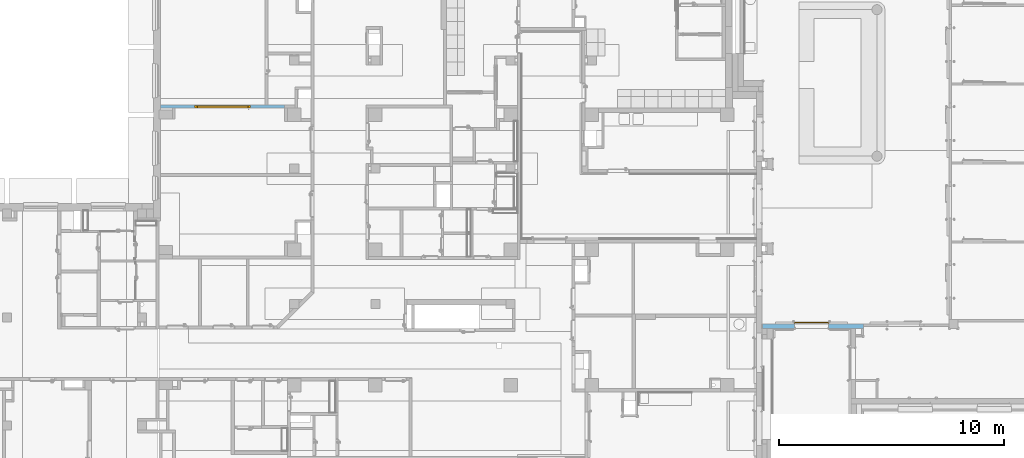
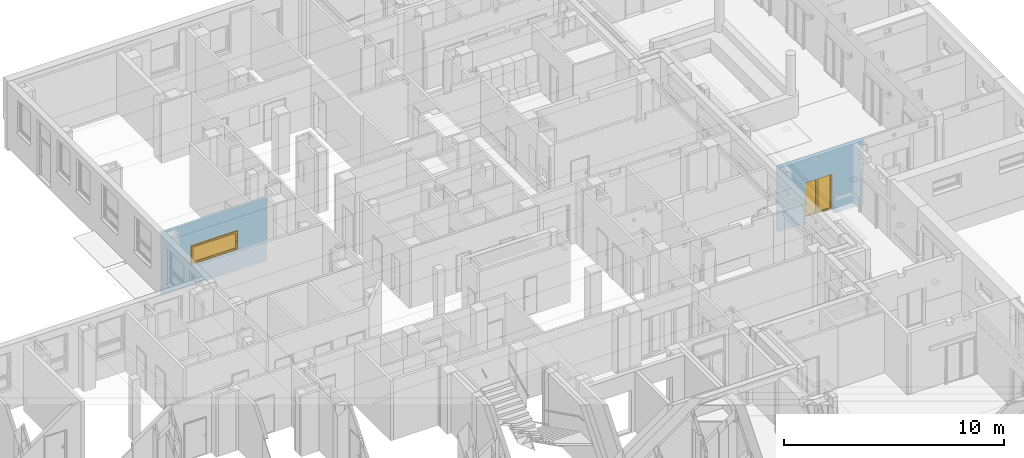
# One storey, part 89 of 140: 1 door, 1 window, 3 openings, plus 2 elements that do not belong to this part.
"""IFC4 building model written with IfcOpenShell, lengths in metres."""

from ifc_helpers import new_model, entity, si_unit, converted_unit, derived_unit, frame, frame_2d, origin, origin_with_axes, place, context, subcontext, project, spatial, polyline, rectangle, outline, extrude, closed_shell, open_shell, surface_model, source, transform, mapped, material, layer, layer_set, layer_usage, type_object, element, fill, save


model = new_model("IFC4")

# Units and contexts
model_context = context("Model", 3, precision=1e-05, world=origin())
body_context = subcontext(model_context, "Body", "Model", "MODEL_VIEW")
ifc_project = project(units=[si_unit("LENGTHUNIT", "METRE"), si_unit("AREAUNIT", "SQUARE_METRE"), si_unit("VOLUMEUNIT", "CUBIC_METRE"), si_unit("MASSUNIT", "GRAM", prefix="KILO"), converted_unit("PLANEANGLEUNIT", "DEGREE", entity("IfcPlaneAngleMeasure", 0.0174532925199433), si_unit("PLANEANGLEUNIT", "RADIAN"), dimensions=[0, 0, 0, 0, 0, 0, 0]), derived_unit("THERMALTRANSMITTANCEUNIT", [(si_unit("POWERUNIT", "WATT"), 1), (si_unit("THERMODYNAMICTEMPERATUREUNIT", "KELVIN"), -1), (si_unit("LENGTHUNIT", "METRE"), -2)]), derived_unit("VOLUMETRICFLOWRATEUNIT", [(si_unit("LENGTHUNIT", "METRE"), 3), (converted_unit("TIMEUNIT", "hour", entity("IfcTimeMeasure", 3600.0), si_unit("TIMEUNIT", "SECOND"), dimensions=[0, 0, 1, 0, 0, 0, 0]), -1), (si_unit("LENGTHUNIT", "METRE"), -1)])], contexts=[model_context])

# Site, building, storey
site_placement = place(None, origin())
site = spatial("IfcSite", under=ifc_project, at=site_placement, Name="3. ASŘ", CompositionType="ELEMENT")
building_placement = place(site_placement, origin())
building = spatial("IfcBuilding", under=site, at=building_placement, Name="Pavilon C", CompositionType="ELEMENT")
storey_placement = place(building_placement, origin())
storey = spatial("IfcBuildingStorey", under=building, at=storey_placement, Name="Půdorys 1.NP", CompositionType="ELEMENT", Elevation=0.0)

# Wall, opening, window
ifc_material_1 = material(Name="YTONG 125")
ifc_layer_1 = layer(ifc_material_1, 0.125)
ifc_layer_set_1 = layer_set([ifc_layer_1])
ifc_layer_usage_1 = layer_usage(ifc_layer_set_1, "AXIS2", "POSITIVE", 0.0)
wall_1_placement = place(storey_placement, frame((30.325, 19.625, -0.25), z_axis=(0.0, 0.0, 1.0), x_axis=(-1.0, 0.0, 0.0)))
wall_1 = element("IfcWall", 1, at=wall_1_placement, inside=storey, material=ifc_layer_usage_1, Name="YTONG 125", context=body_context, shape_type="SweptSolid", body=[
    extrude(rectangle(XDim=5.505, YDim=0.125, at=frame_2d((2.7525, 0.0625), x_axis=(1.0, 0.0))), origin_with_axes(), (0.0, 0.0, 1.0), 3.5),
])
opening_1_placement = place(wall_1_placement, frame((1.505, 0.0, 1.15), z_axis=(0.0, 1.0, 0.0), x_axis=(0.0, 0.0, 1.0)))
opening_1 = element("IfcOpeningElement", 2, at=opening_1_placement, cuts=wall_1, Name="Okenní otvor", ObjectType="Opening", context=body_context, shape_type="SweptSolid", body=[
    extrude(outline(polyline([(0.0, 2.5), (1.1, 2.5), (1.1, 0.0), (0.0, 0.0), (0.0, 2.5)])), origin_with_axes(), (0.0, 0.0, 1.0), 0.125),
])
shared_shape_1 = source(origin_with_axes(), body_context, "Body", "SurfaceModel", [
    surface_model("IfcShellBasedSurfaceModel", [(0.0, 0.182, 1.1), (0.0, 0.182, -5.63337527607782e-18), (0.08, 0.182, -5.63337527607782e-18), (0.08, 0.182, 1.1), (0.0, 0.0899999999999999, 5.63337527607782e-18), (0.0, 0.0900000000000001, 1.1), (0.08, 0.0900000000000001, 1.1), (0.08, 0.0899999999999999, 5.63337527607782e-18)], [closed_shell([[[0, 1, 2, 3]], [[4, 5, 6, 7]], [[1, 0, 5, 4]], [[2, 1, 4, 7]], [[3, 2, 7, 6]], [[0, 3, 6, 5]]], orient=[[False], [False], [False], [False], [False], [False]])]),
    surface_model("IfcShellBasedSurfaceModel", [(2.42, 0.182, 1.1), (2.42, 0.182, -5.63337527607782e-18), (2.5, 0.182, -5.63337527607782e-18), (2.5, 0.182, 1.1), (2.42, 0.0899999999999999, 5.63337527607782e-18), (2.42, 0.0900000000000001, 1.1), (2.5, 0.0900000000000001, 1.1), (2.5, 0.0899999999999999, 5.63337527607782e-18)], [closed_shell([[[0, 1, 2, 3]], [[4, 5, 6, 7]], [[1, 0, 5, 4]], [[2, 1, 4, 7]], [[3, 2, 7, 6]], [[0, 3, 6, 5]]], orient=[[False], [False], [False], [False], [False], [False]])]),
    surface_model("IfcShellBasedSurfaceModel", [(0.08, 0.182, 0.08), (0.08, 0.182, -5.63337527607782e-18), (2.42, 0.182, -5.63337527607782e-18), (2.42, 0.182, 0.08), (0.08, 0.0899999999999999, 5.63337527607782e-18), (0.08, 0.0899999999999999, 0.08), (2.42, 0.0899999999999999, 0.08), (2.42, 0.0899999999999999, 5.63337527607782e-18)], [closed_shell([[[0, 1, 2, 3]], [[4, 5, 6, 7]], [[1, 0, 5, 4]], [[2, 1, 4, 7]], [[3, 2, 7, 6]], [[0, 3, 6, 5]]], orient=[[False], [False], [False], [False], [False], [False]])]),
    surface_model("IfcShellBasedSurfaceModel", [(0.08, 0.182, 1.1), (0.08, 0.182, 1.02), (2.42, 0.182, 1.02), (2.42, 0.182, 1.1), (0.08, 0.0900000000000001, 1.02), (0.08, 0.0900000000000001, 1.1), (2.42, 0.0900000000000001, 1.1), (2.42, 0.0900000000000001, 1.02)], [closed_shell([[[0, 1, 2, 3]], [[4, 5, 6, 7]], [[1, 0, 5, 4]], [[2, 1, 4, 7]], [[3, 2, 7, 6]], [[0, 3, 6, 5]]], orient=[[False], [False], [False], [False], [False], [False]])]),
    surface_model("IfcShellBasedSurfaceModel", [(0.05, 0.145, 1.05), (0.05, 0.145, 0.05), (0.13, 0.145, 0.05), (0.13, 0.145, 1.05), (0.05, 0.0599999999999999, 0.05), (0.05, 0.0600000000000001, 1.05), (0.13, 0.0600000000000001, 1.05), (0.13, 0.0599999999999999, 0.05)], [closed_shell([[[0, 1, 2, 3]], [[4, 5, 6, 7]], [[1, 0, 5, 4]], [[2, 1, 4, 7]], [[3, 2, 7, 6]], [[0, 3, 6, 5]]], orient=[[False], [False], [False], [False], [False], [False]])]),
    surface_model("IfcShellBasedSurfaceModel", [(2.37, 0.145, 1.05), (2.37, 0.145, 0.05), (2.45, 0.145, 0.05), (2.45, 0.145, 1.05), (2.37, 0.0599999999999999, 0.05), (2.37, 0.0600000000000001, 1.05), (2.45, 0.0600000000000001, 1.05), (2.45, 0.0599999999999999, 0.05)], [closed_shell([[[0, 1, 2, 3]], [[4, 5, 6, 7]], [[1, 0, 5, 4]], [[2, 1, 4, 7]], [[3, 2, 7, 6]], [[0, 3, 6, 5]]], orient=[[False], [False], [False], [False], [False], [False]])]),
    surface_model("IfcShellBasedSurfaceModel", [(0.13, 0.145, 0.13), (0.13, 0.145, 0.05), (2.37, 0.145, 0.05), (2.37, 0.145, 0.13), (0.13, 0.0599999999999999, 0.05), (0.13, 0.06, 0.13), (2.37, 0.06, 0.13), (2.37, 0.0599999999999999, 0.05)], [closed_shell([[[0, 1, 2, 3]], [[4, 5, 6, 7]], [[1, 0, 5, 4]], [[2, 1, 4, 7]], [[3, 2, 7, 6]], [[0, 3, 6, 5]]], orient=[[False], [False], [False], [False], [False], [False]])]),
    surface_model("IfcShellBasedSurfaceModel", [(0.13, 0.145, 1.05), (0.13, 0.145, 0.97), (2.37, 0.145, 0.97), (2.37, 0.145, 1.05), (0.13, 0.0600000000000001, 0.97), (0.13, 0.0600000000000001, 1.05), (2.37, 0.0600000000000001, 1.05), (2.37, 0.0600000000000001, 0.97)], [closed_shell([[[0, 1, 2, 3]], [[4, 5, 6, 7]], [[1, 0, 5, 4]], [[2, 1, 4, 7]], [[3, 2, 7, 6]], [[0, 3, 6, 5]]], orient=[[False], [False], [False], [False], [False], [False]])]),
    surface_model("IfcShellBasedSurfaceModel", [(2.3975, 0.06, 0.57), (2.3975, 0.06, 0.53), (2.4225, 0.06, 0.53), (2.4225, 0.06, 0.57), (2.3975, 0.05, 0.53), (2.3975, 0.05, 0.57), (2.4225, 0.05, 0.57), (2.4225, 0.05, 0.53)], [closed_shell([[[0, 1, 2, 3]], [[4, 5, 6, 7]], [[1, 0, 5, 4]], [[2, 1, 4, 7]], [[3, 2, 7, 6]], [[0, 3, 6, 5]]], orient=[[False], [False], [False], [False], [False], [False]])]),
    surface_model("IfcShellBasedSurfaceModel", [(2.42, 0.05, 0.55), (2.41866025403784, 0.05, 0.555), (2.415, 0.05, 0.558660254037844), (2.41, 0.05, 0.56), (2.405, 0.05, 0.558660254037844), (2.40133974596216, 0.05, 0.555), (2.4, 0.05, 0.55), (2.40133974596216, 0.05, 0.545), (2.405, 0.05, 0.541339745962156), (2.41, 0.05, 0.54), (2.415, 0.05, 0.541339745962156), (2.41866025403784, 0.05, 0.545), (2.42, 0.01, 0.55), (2.41866025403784, 0.00500000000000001, 0.555), (2.415, 0.00133974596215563, 0.558660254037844), (2.41, 2.8421709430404e-17, 0.56), (2.405, 0.00133974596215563, 0.558660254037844), (2.40133974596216, 0.00500000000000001, 0.555), (2.4, 0.01, 0.55), (2.40133974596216, 0.015, 0.545), (2.405, 0.0186602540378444, 0.541339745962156), (2.41, 0.02, 0.54), (2.415, 0.0186602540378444, 0.541339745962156), (2.41866025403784, 0.015, 0.545), (2.42, 0.00999999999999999, 0.435), (2.41866025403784, 0.005, 0.435), (2.415, 0.0013397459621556, 0.435), (2.41, 0.0, 0.435), (2.405, 0.0013397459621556, 0.435), (2.40133974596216, 0.005, 0.435), (2.4, 0.00999999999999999, 0.435), (2.40133974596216, 0.015, 0.435), (2.405, 0.0186602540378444, 0.435), (2.41, 0.02, 0.435), (2.415, 0.0186602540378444, 0.435), (2.41866025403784, 0.015, 0.435)], [open_shell([[[0, 1, 2, 3, 4, 5, 6, 7, 8, 9, 10, 11]], [[0, 12, 13, 1]], [[1, 13, 14, 2]], [[2, 14, 15, 3]], [[3, 15, 16, 4]], [[4, 16, 17, 5]], [[5, 17, 18, 6]], [[6, 18, 19, 7]], [[7, 19, 20, 8]], [[8, 20, 21, 9]], [[9, 21, 22, 10]], [[10, 22, 23, 11]], [[11, 23, 12, 0]], [[12, 24, 25, 13]], [[13, 25, 26, 14]], [[14, 26, 27, 15]], [[15, 27, 28, 16]], [[16, 28, 29, 17]], [[17, 29, 30, 18]], [[18, 30, 31, 19]], [[19, 31, 32, 20]], [[20, 32, 33, 21]], [[21, 33, 34, 22]], [[22, 34, 35, 23]], [[23, 35, 24, 12]]], orient=[[False], [False], [False], [False], [False], [False], [False], [False], [False], [False], [False], [False], [False], [False], [False], [False], [False], [False], [False], [False], [False], [False], [False], [False], [False]])]),
    surface_model("IfcShellBasedSurfaceModel", [(0.13, 0.1025, 0.13), (2.37, 0.1025, 0.13), (2.37, 0.1025, 0.97), (0.13, 0.1025, 0.97)], [open_shell([[[0, 1, 2, 3]]], orient=[[False]])]),
])
window_placement = place(opening_1_placement, frame((0.0, 2.5, 0.1985), z_axis=(1.0, 0.0, 0.0), x_axis=(0.0, -1.0, 2.44929359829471e-16)))
window = element("IfcWindow", 3, at=window_placement, inside=storey, Name="O06", OverallHeight=1.1, OverallWidth=2.5, PartitioningType="USERDEFINED", PredefinedType="WINDOW", context=body_context, shape_type="MappedRepresentation", body=[
    mapped(shared_shape_1, transform((0.0, 0.0, 0.0), x_axis=(1.0, 0.0, 0.0), y_axis=(0.0, 1.0, 0.0), z_axis=(0.0, 0.0, 1.0), scale=1.0)),
])
fill(opening_1, window)

# Wall, openings, door
ifc_material_2 = material(Name="ZELEZOBETONOVÁ KCE")
ifc_layer_2 = layer(ifc_material_2, 0.2)
ifc_layer_set_2 = layer_set([ifc_layer_2])
ifc_layer_usage_2 = layer_usage(ifc_layer_set_2, "AXIS2", "POSITIVE", 0.0)
wall_2_placement = place(storey_placement, frame((56.0, 9.89999999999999, -0.15), z_axis=(0.0, 0.0, 1.0), x_axis=(-1.0, -1.62409768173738e-15, 0.0)))
wall_2 = element("IfcWall", 4, at=wall_2_placement, inside=storey, material=ifc_layer_usage_2, Name="ZELEZOBETONOVÁ KCE", context=body_context, shape_type="SweptSolid", body=[
    extrude(rectangle(XDim=4.47999999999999, YDim=0.2, at=frame_2d((2.23999999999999, 0.1), x_axis=(1.0, 0.0))), origin_with_axes(), (0.0, 0.0, 1.0), 3.55),
])
opening_2_placement = place(wall_2_placement, frame((3.05000000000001, 0.199999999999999, 0.0), z_axis=(-2.27373675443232e-15, -1.0, 0.0), x_axis=(0.0, 0.0, 1.0)))
opening_2 = element("IfcOpeningElement", 5, at=opening_2_placement, cuts=wall_2, Name="Dveřní otvor", ObjectType="Opening", context=body_context, shape_type="SweptSolid", body=[
    extrude(outline(polyline([(0.0, 1.5), (2.25, 1.5), (2.25, 0.0), (0.0, 0.0), (0.0, 1.5)])), origin_with_axes(), (0.0, 0.0, 1.0), 0.2),
])
opening_3_placement = place(wall_2_placement, frame((2.3228945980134, -4.37903746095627e-14, 3.26), z_axis=(2.27373675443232e-15, 1.0, 0.0), x_axis=(0.0, 0.0, 1.0)))
element("IfcOpeningElement", 6, at=opening_3_placement, cuts=wall_2, Name="VZT", ObjectType="Opening", context=body_context, shape_type="SweptSolid", body=[
    extrude(outline(polyline([(0.13, 0.26), (0.143588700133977, 0.259287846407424), (0.157028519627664, 0.257159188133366), (0.170172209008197, 0.253637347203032), (0.182875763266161, 0.248760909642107), (0.194999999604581, 0.242583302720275), (0.206412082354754, 0.235172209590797), (0.216986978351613, 0.226608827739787), (0.226608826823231, 0.216986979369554), (0.235172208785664, 0.206412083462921), (0.242583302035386, 0.195000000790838), (0.248760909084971, 0.182875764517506), (0.253637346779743, 0.170172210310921), (0.257159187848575, 0.157028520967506), (0.259287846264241, 0.14358870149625), (0.26, 0.130000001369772), (0.259287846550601, 0.116411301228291), (0.257159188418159, 0.102971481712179), (0.25363734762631, 0.0898277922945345), (0.248760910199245, 0.0771242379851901), (0.242583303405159, 0.0650000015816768), (0.235172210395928, 0.0535879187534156), (0.226608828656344, 0.0430130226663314), (0.216986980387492, 0.0333911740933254), (0.206412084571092, 0.0248277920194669), (0.195000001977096, 0.0174166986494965), (0.18287576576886, 0.0112390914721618), (0.170172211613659, 0.0063626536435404), (0.157028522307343, 0.00284081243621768), (0.143588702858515, 0.000712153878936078), (0.129999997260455, 0.0), (0.116411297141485, 0.000712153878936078), (0.102971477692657, 0.00284081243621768), (0.0898277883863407, 0.0063626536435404), (0.0771242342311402, 0.0112390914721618), (0.0649999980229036, 0.0174166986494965), (0.0535879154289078, 0.0248277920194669), (0.0430130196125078, 0.0333911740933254), (0.0333911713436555, 0.0430130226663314), (0.0248277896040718, 0.0535879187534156), (0.0174166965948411, 0.0650000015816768), (0.0112390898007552, 0.0771242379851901), (0.00636265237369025, 0.0898277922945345), (0.00284081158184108, 0.102971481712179), (0.000712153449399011, 0.116411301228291), (0.0, 0.130000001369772), (0.00071215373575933, 0.14358870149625), (0.00284081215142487, 0.157028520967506), (0.00636265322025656, 0.170172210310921), (0.011239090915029, 0.182875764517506), (0.0174166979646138, 0.195000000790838), (0.0248277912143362, 0.206412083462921), (0.0333911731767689, 0.216986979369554), (0.0430130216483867, 0.226608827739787), (0.0535879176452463, 0.235172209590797), (0.0650000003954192, 0.242583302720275), (0.0771242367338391, 0.248760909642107), (0.0898277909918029, 0.253637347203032), (0.102971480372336, 0.257159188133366), (0.116411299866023, 0.259287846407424), (0.13, 0.26)])), origin_with_axes(), (0.0, 0.0, 1.0), 0.2),
])
door_type = type_object("IfcDoorType", Name="I.DH12", OperationType="NOTDEFINED", ParameterTakesPrecedence=False, PredefinedType="DOOR")
shared_shape_2 = source(origin_with_axes(), body_context, "Body", "SurfaceModel", [
    surface_model("IfcShellBasedSurfaceModel", [(0.0, 0.1, 2.119), (0.0, 0.1, 0.0), (0.02, 0.1, 0.0), (0.02, 0.1, 2.119), (0.0, 0.05, 0.0), (0.0, 0.0500000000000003, 2.119), (0.02, 0.0500000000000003, 2.119), (0.02, 0.05, 0.0)], [closed_shell([[[0, 1, 2, 3]], [[4, 5, 6, 7]], [[1, 0, 5, 4]], [[2, 1, 4, 7]], [[3, 2, 7, 6]], [[0, 3, 6, 5]]], orient=[[False], [False], [False], [False], [False], [False]])]),
    surface_model("IfcShellBasedSurfaceModel", [(1.52, 0.1, 2.119), (1.52, 0.1, 0.0), (1.54, 0.1, 0.0), (1.54, 0.1, 2.119), (1.52, 0.05, 0.0), (1.52, 0.0500000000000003, 2.119), (1.54, 0.0500000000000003, 2.119), (1.54, 0.05, 0.0)], [closed_shell([[[0, 1, 2, 3]], [[4, 5, 6, 7]], [[1, 0, 5, 4]], [[2, 1, 4, 7]], [[3, 2, 7, 6]], [[0, 3, 6, 5]]], orient=[[False], [False], [False], [False], [False], [False]])]),
    surface_model("IfcShellBasedSurfaceModel", [(0.02, 0.1, 2.119), (0.02, 0.1, 2.099), (1.52, 0.1, 2.099), (1.52, 0.1, 2.119), (0.02, 0.0500000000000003, 2.099), (0.02, 0.0500000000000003, 2.119), (1.52, 0.0500000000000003, 2.119), (1.52, 0.0500000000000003, 2.099)], [closed_shell([[[0, 1, 2, 3]], [[4, 5, 6, 7]], [[1, 0, 5, 4]], [[2, 1, 4, 7]], [[3, 2, 7, 6]], [[0, 3, 6, 5]]], orient=[[False], [False], [False], [False], [False], [False]])]),
    surface_model("IfcShellBasedSurfaceModel", [(0.02, 0.0500000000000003, 2.099), (0.02, 0.05, 0.0), (0.07, 0.05, 0.0), (0.07, 0.0500000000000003, 2.099), (0.02, 0.0, 0.0), (0.02, 2.55795384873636e-16, 2.099), (0.07, 2.55795384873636e-16, 2.099), (0.07, 0.0, 0.0)], [closed_shell([[[0, 1, 2, 3]], [[4, 5, 6, 7]], [[1, 0, 5, 4]], [[2, 1, 4, 7]], [[3, 2, 7, 6]], [[0, 3, 6, 5]]], orient=[[False], [False], [False], [False], [False], [False]])]),
    surface_model("IfcShellBasedSurfaceModel", [(0.7195, 0.0500000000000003, 2.099), (0.7195, 0.05, 0.0), (0.7695, 0.05, 0.0), (0.7695, 0.0500000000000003, 2.099), (0.7195, 0.0, 0.0), (0.7195, 2.55795384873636e-16, 2.099), (0.7695, 2.55795384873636e-16, 2.099), (0.7695, 0.0, 0.0)], [closed_shell([[[0, 1, 2, 3]], [[4, 5, 6, 7]], [[1, 0, 5, 4]], [[2, 1, 4, 7]], [[3, 2, 7, 6]], [[0, 3, 6, 5]]], orient=[[False], [False], [False], [False], [False], [False]])]),
    surface_model("IfcShellBasedSurfaceModel", [(0.07, 0.05, 0.05), (0.07, 0.05, 0.0), (0.7195, 0.05, 0.0), (0.7195, 0.05, 0.05), (0.07, 0.0, 0.0), (0.07, 7.105427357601e-18, 0.05), (0.7195, 7.105427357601e-18, 0.05), (0.7195, 0.0, 0.0)], [closed_shell([[[0, 1, 2, 3]], [[4, 5, 6, 7]], [[1, 0, 5, 4]], [[2, 1, 4, 7]], [[3, 2, 7, 6]], [[0, 3, 6, 5]]], orient=[[False], [False], [False], [False], [False], [False]])]),
    surface_model("IfcShellBasedSurfaceModel", [(0.07, 0.0500000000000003, 2.099), (0.07, 0.0500000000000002, 2.049), (0.7195, 0.0500000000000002, 2.049), (0.7195, 0.0500000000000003, 2.099), (0.07, 2.48689957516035e-16, 2.049), (0.07, 2.55795384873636e-16, 2.099), (0.7195, 2.55795384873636e-16, 2.099), (0.7195, 2.48689957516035e-16, 2.049)], [closed_shell([[[0, 1, 2, 3]], [[4, 5, 6, 7]], [[1, 0, 5, 4]], [[2, 1, 4, 7]], [[3, 2, 7, 6]], [[0, 3, 6, 5]]], orient=[[False], [False], [False], [False], [False], [False]])]),
    surface_model("IfcShellBasedSurfaceModel", [(0.7705, 0.0500000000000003, 2.099), (0.7705, 0.05, 0.0), (0.8205, 0.05, 0.0), (0.8205, 0.0500000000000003, 2.099), (0.7705, 0.0, 0.0), (0.7705, 2.55795384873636e-16, 2.099), (0.8205, 2.55795384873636e-16, 2.099), (0.8205, 0.0, 0.0)], [closed_shell([[[0, 1, 2, 3]], [[4, 5, 6, 7]], [[1, 0, 5, 4]], [[2, 1, 4, 7]], [[3, 2, 7, 6]], [[0, 3, 6, 5]]], orient=[[False], [False], [False], [False], [False], [False]])]),
    surface_model("IfcShellBasedSurfaceModel", [(1.47, 0.0500000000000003, 2.099), (1.47, 0.05, 0.0), (1.52, 0.05, 0.0), (1.52, 0.0500000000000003, 2.099), (1.47, 0.0, 0.0), (1.47, 2.55795384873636e-16, 2.099), (1.52, 2.55795384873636e-16, 2.099), (1.52, 0.0, 0.0)], [closed_shell([[[0, 1, 2, 3]], [[4, 5, 6, 7]], [[1, 0, 5, 4]], [[2, 1, 4, 7]], [[3, 2, 7, 6]], [[0, 3, 6, 5]]], orient=[[False], [False], [False], [False], [False], [False]])]),
    surface_model("IfcShellBasedSurfaceModel", [(0.8205, 0.05, 0.05), (0.8205, 0.05, 0.0), (1.47, 0.05, 0.0), (1.47, 0.05, 0.05), (0.8205, 0.0, 0.0), (0.8205, 7.105427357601e-18, 0.05), (1.47, 7.105427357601e-18, 0.05), (1.47, 0.0, 0.0)], [closed_shell([[[0, 1, 2, 3]], [[4, 5, 6, 7]], [[1, 0, 5, 4]], [[2, 1, 4, 7]], [[3, 2, 7, 6]], [[0, 3, 6, 5]]], orient=[[False], [False], [False], [False], [False], [False]])]),
    surface_model("IfcShellBasedSurfaceModel", [(0.8205, 0.0500000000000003, 2.099), (0.8205, 0.0500000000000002, 2.049), (1.47, 0.0500000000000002, 2.049), (1.47, 0.0500000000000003, 2.099), (0.8205, 2.48689957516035e-16, 2.049), (0.8205, 2.55795384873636e-16, 2.099), (1.47, 2.55795384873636e-16, 2.099), (1.47, 2.48689957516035e-16, 2.049)], [closed_shell([[[0, 1, 2, 3]], [[4, 5, 6, 7]], [[1, 0, 5, 4]], [[2, 1, 4, 7]], [[3, 2, 7, 6]], [[0, 3, 6, 5]]], orient=[[False], [False], [False], [False], [False], [False]])]),
    surface_model("IfcShellBasedSurfaceModel", [(0.07, 0.025, 0.05), (0.7195, 0.025, 0.05), (0.7195, 0.0250000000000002, 2.049), (0.07, 0.0250000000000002, 2.049)], [open_shell([[[0, 1, 2, 3]]], orient=[[False]])]),
    surface_model("IfcShellBasedSurfaceModel", [(0.8205, 0.025, 0.05), (1.47, 0.025, 0.05), (1.47, 0.0250000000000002, 2.049), (0.8205, 0.0250000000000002, 2.049)], [open_shell([[[0, 1, 2, 3]]], orient=[[False]])]),
])
door_placement = place(opening_2_placement, frame((0.151, -0.02, 0.300000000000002), z_axis=(1.0, 0.0, 0.0), x_axis=(0.0, 1.0, 5.27174392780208e-16)))
door = element("IfcDoor", 7, at=door_placement, inside=storey, type_object=door_type, Name="I.DH12", OverallHeight=2.29, OverallWidth=1.58, context=body_context, shape_type="MappedRepresentation", body=[
    mapped(shared_shape_2, transform((0.0, 0.0, 0.0), x_axis=(1.0, 0.0, 0.0), y_axis=(0.0, -1.0, 0.0), z_axis=(0.0, 0.0, 1.0), scale=1.0)),
])
fill(opening_2, door)

save(model, "model.ifc")
